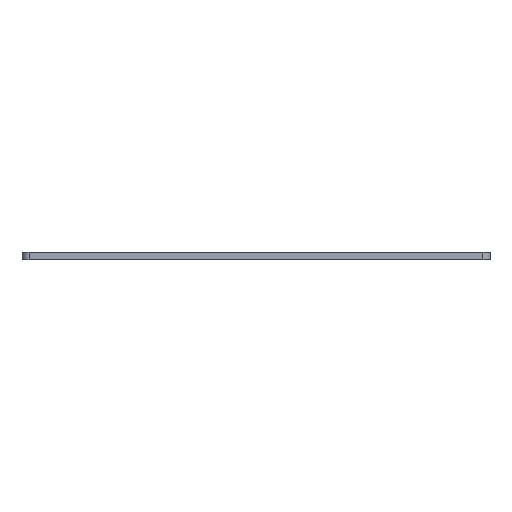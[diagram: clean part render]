
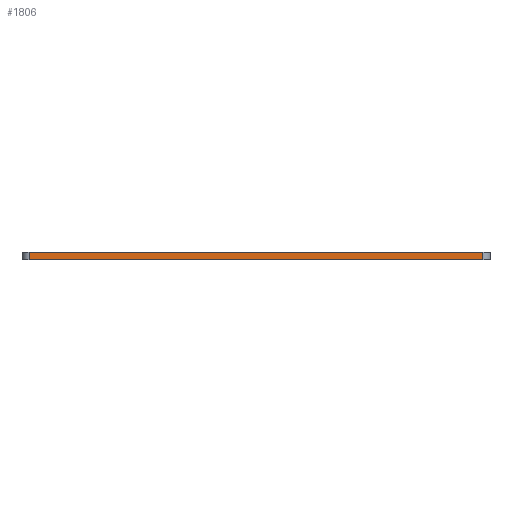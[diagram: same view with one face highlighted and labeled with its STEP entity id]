
A CAD part, front view. The second image highlights one B-rep face of the part: STEP entity #1806.
In plain terms, the highlighted planar face has unit normal (0, -1, 0).
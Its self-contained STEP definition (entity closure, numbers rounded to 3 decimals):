
#554=CARTESIAN_POINT('',(-20.406,-6.45,2.0));
#555=VERTEX_POINT('',#554);
#563=CARTESIAN_POINT('',(105.594,-6.45,2.0));
#564=VERTEX_POINT('',#563);
#565=CARTESIAN_POINT('',(105.594,-6.45,2.0));
#566=DIRECTION('',(-1.0,0.0,0.0));
#567=VECTOR('',#566,126.);
#568=LINE('',#565,#567);
#569=EDGE_CURVE('',#564,#555,#568,.T.);
#1600=CARTESIAN_POINT('',(105.594,-6.45,0.0));
#1601=VERTEX_POINT('',#1600);
#1609=CARTESIAN_POINT('',(-20.406,-6.45,0.0));
#1610=VERTEX_POINT('',#1609);
#1611=CARTESIAN_POINT('',(105.594,-6.45,0.0));
#1612=DIRECTION('',(-1.0,0.0,0.0));
#1613=VECTOR('',#1612,126.);
#1614=LINE('',#1611,#1613);
#1615=EDGE_CURVE('',#1601,#1610,#1614,.T.);
#1781=CARTESIAN_POINT('',(-20.406,-6.45,0.0));
#1782=DIRECTION('',(0.0,0.0,1.0));
#1783=VECTOR('',#1782,2.0);
#1784=LINE('',#1781,#1783);
#1785=EDGE_CURVE('',#1610,#555,#1784,.T.);
#1790=CARTESIAN_POINT('',(107.594,-6.45,0.0));
#1791=DIRECTION('',(0.0,-1.0,0.0));
#1792=DIRECTION('',(0.0,0.0,-1.0));
#1793=AXIS2_PLACEMENT_3D('',#1790,#1791,#1792);
#1794=PLANE('',#1793);
#1795=ORIENTED_EDGE('',*,*,#1785,.F.);
#1796=ORIENTED_EDGE('',*,*,#1615,.F.);
#1797=CARTESIAN_POINT('',(105.594,-6.45,2.0));
#1798=DIRECTION('',(0.0,0.0,-1.0));
#1799=VECTOR('',#1798,2.0);
#1800=LINE('',#1797,#1799);
#1801=EDGE_CURVE('',#564,#1601,#1800,.T.);
#1802=ORIENTED_EDGE('',*,*,#1801,.F.);
#1803=ORIENTED_EDGE('',*,*,#569,.T.);
#1804=EDGE_LOOP('',(#1795,#1796,#1802,#1803));
#1805=FACE_OUTER_BOUND('',#1804,.T.);
#1806=ADVANCED_FACE('',(#1805),#1794,.T.);
